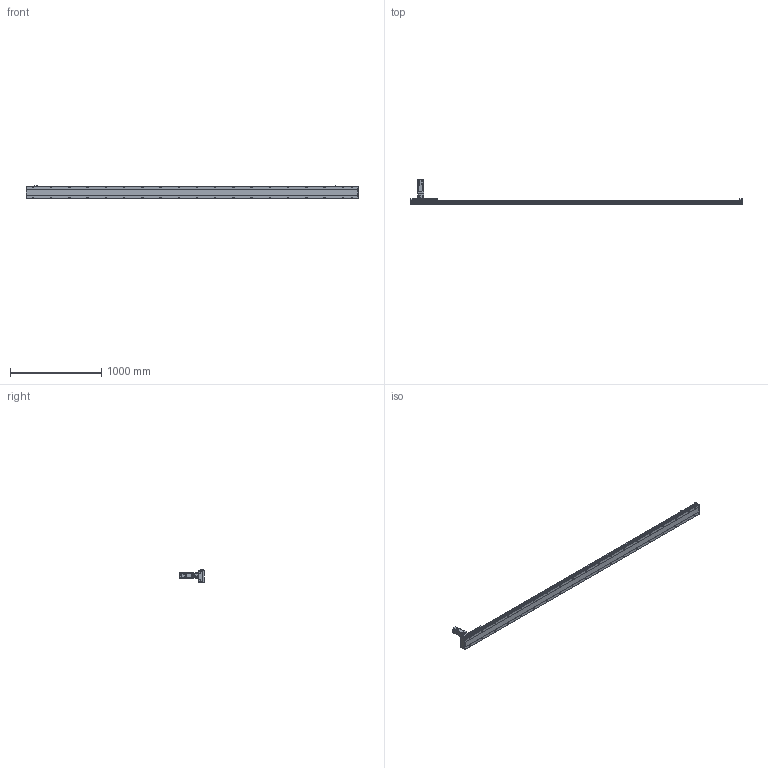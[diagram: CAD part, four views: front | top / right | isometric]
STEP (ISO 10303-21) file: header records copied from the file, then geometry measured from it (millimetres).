
FILE_DESCRIPTION(/* description */ ('STEP AP203'),/* implementation_level */ '2;1');
FILE_NAME(/* name */ 'SHS14A-L10-S3300-BC-T40-C1-N(0)',/* time_stamp */ '2023-03-27T08:28:54+02:00',/* author */ ('License CC BY-ND 4.0'),/* organization */ ('CADENAS'),/* preprocessor_version */ 'ST-DEVELOPER v19.3',/* originating_system */ 'PARTsolutions',/* authorisation */ ' ');
FILE_SCHEMA (('CONFIG_CONTROL_DESIGN'));
Length unit declared in the file: millimetre
Products named in the file (7): SHS14A-L10-S3300-BC-T40-C1-N(0); PSC140-sensor; T40-p1; SHS14AT_body3; SHS14A-3300_slider; SHS14A_body2; SHS14A-S3300-BC-T40-C1(0)_body
Assembly tree (13 placements, depth 2):
  SHS14A-L10-S3300-BC-T40-C1-N(0)
    PSC140-sensor  x3
    T40-p1
    SHS14AT_body3
    SHS14A-3300_slider
    SHS14A_body2  x6
    SHS14A-S3300-BC-T40-C1(0)_body
Bounding box: 3640 x 272.7 x 150.9 mm (x, y, z)
Volume: 14707121.6 mm3; surface area: 2280642.1 mm2
Topology: 13 solids, 13 shells, 2204 faces, 5623 edges, 3676 vertices
Faces by surface type: plane 1509, cylinder 595, cone 90, torus 10
Full cylindrical faces by diameter (mm): 2.8 x3, 4.134 x24, 4.2 x7, 4.4 x24, 4.5 x24, 4.6 x3, 4.8 x24, 4.917 x46, 5 x8, 5.5 x11, 5.94 x6, 6 x2, 6.6 x38, 8 x24, 8.49 x4, 8.5 x4, 9 x4, 10.5 x38, 13.964 x1, 14 x1, 14.182 x1, 16 x1, 18.974 x1, 19.274 x1, 19.774 x1, 19.8 x1, 34.442 x1, 42 x1, 50 x5
Entity records: 36448 total; most frequent: CARTESIAN_POINT 6552, DIRECTION 6157, ORIENTED_EDGE 5622, EDGE_CURVE 2811, AXIS2_PLACEMENT_3D 2177, VERTEX_POINT 2020, EDGE_LOOP 1889, FACE_BOUND 1889
